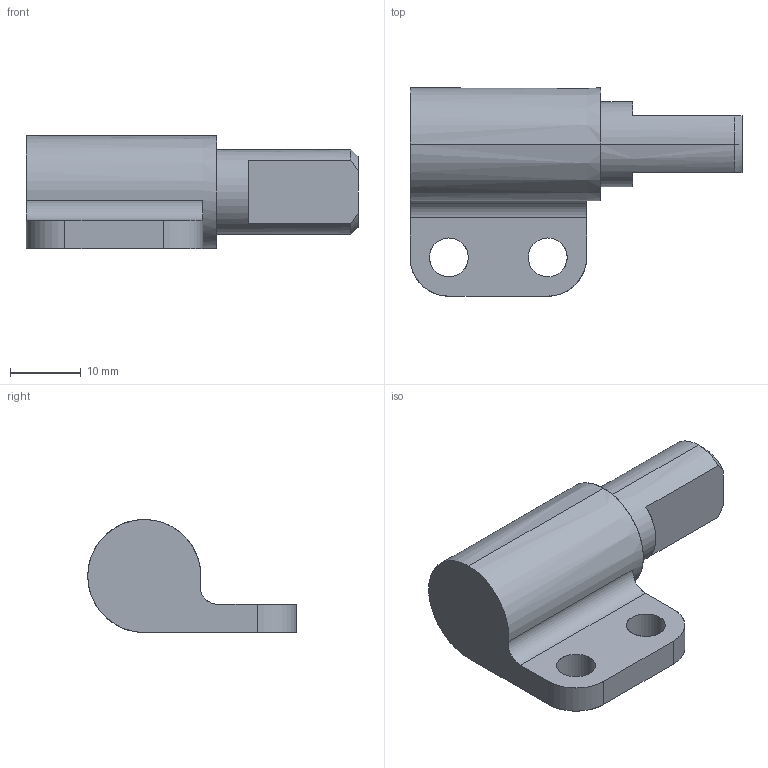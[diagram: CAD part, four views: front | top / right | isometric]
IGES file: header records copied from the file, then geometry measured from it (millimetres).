
Start section: SolidWorks IGES file using analytic representation for surfaces
Bounding box: 47 x 29.5 x 16 mm (x, y, z)
Surface area: 3337.4 mm2 (no closed solid volume)
Topology: 0 solids, 0 shells, 25 faces, 406 edges, 406 vertices
Faces by surface type: revolution 14, bspline 11
